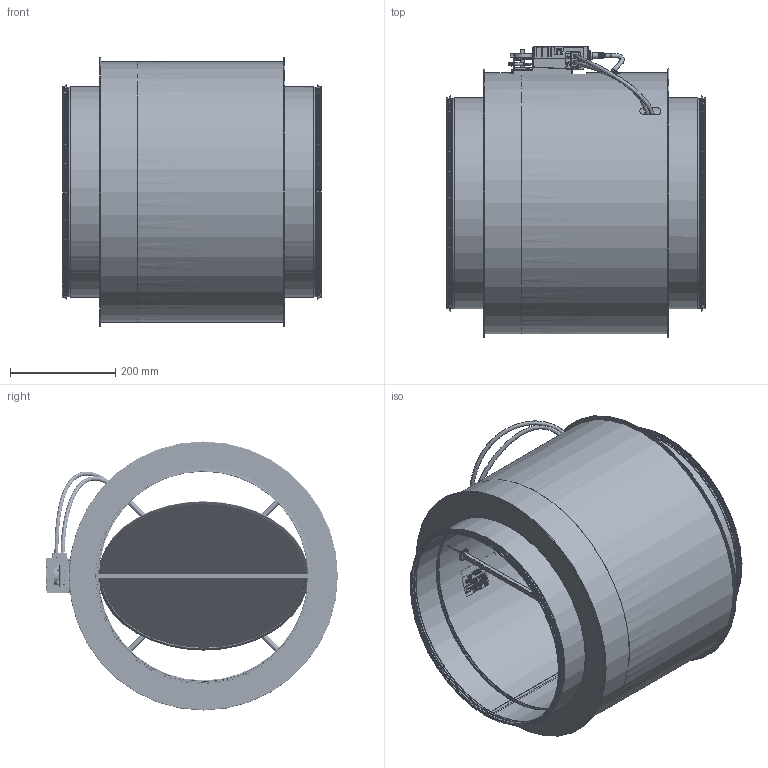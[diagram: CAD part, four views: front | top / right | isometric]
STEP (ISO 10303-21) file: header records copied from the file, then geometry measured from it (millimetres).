
FILE_DESCRIPTION (( 'STEP AP214' ), '1' );
FILE_NAME ('VAV-RI400.SLDASM.STEP', '2025-03-05T15:56:02', ( '' ), ( '' ), 'SwSTEP 2.0', 'SolidWorks 2025', '' );
FILE_SCHEMA (( 'AUTOMOTIVE_DESIGN' ));
Length unit declared in the file: millimetre
Products named in the file (20): BLECHSCHRAUBE; LDE_DN400; Dichtung_innenxxx_x_x; Dichtung_Vierkantxxx_x_x; DB_DN400; Dichtungen; KLAPPE400; CROSS_PLUG; CROSS_PIECE; Duct1^VAV-RI400; BELIMO_MOTOR BRACKET_DN500-630; Label VAVR400; VAV-RI400.SLDASM; Isogehäuse_DN400; Sicherungsscheibexxx_x_x; CROSS_DN400; Abschlusskappexxx_x_x; CROSS_WING400; LMV-D3-MP; VSRV_Zapfen
Assembly tree (28 placements, depth 3):
  VAV-RI400.SLDASM
    DB_DN400
    BELIMO_MOTOR BRACKET_DN500-630
    CROSS_DN400
      CROSS_PIECE
      CROSS_WING400  x4
      CROSS_PLUG  x3
      VSRV_Zapfen
    LDE_DN400  x2
    BLECHSCHRAUBE  x3
    LMV-D3-MP
    KLAPPE400
    Dichtungen  x2
      Abschlusskappexxx_x_x
      Dichtung_innenxxx_x_x
      Dichtung_Vierkantxxx_x_x
      Sicherungsscheibexxx_x_x
    Label VAVR400
    Isogehäuse_DN400
    Duct1^VAV-RI400
Bounding box: 491.74 x 553.52 x 510.5 mm (x, y, z)
Volume: 1009610.7 mm3; surface area: 3299709.1 mm2
Topology: 30 solids, 48 shells, 7260 faces, 19481 edges, 12805 vertices
Faces by surface type: plane 3479, bspline 2461, cylinder 1058, torus 140, cone 92, sphere 30
Full cylindrical faces by diameter (mm): 1 x4, 1.911 x6, 2 x24, 2.5 x6, 3.318 x1, 3.5 x3, 4 x2, 5 x2, 5.5 x3, 6 x27, 7.5 x2, 8 x21, 11 x1, 16 x2, 20 x2, 21 x2, 21.422 x2, 23.5 x2, 25 x2, 396.74 x2, 399.14 x4, 400 x1, 401 x1, 409.74 x2, 493 x1, 494 x2, 495 x1
Entity records: 372463 total; most frequent: CARTESIAN_POINT 164055, ORIENTED_EDGE 36769, EDGE_CURVE 18406, DIRECTION 18203, VERTEX_POINT 12223, B_SPLINE_CURVE_WITH_KNOTS 11177, EDGE_LOOP 7762, FACE_OUTER_BOUND 7047
